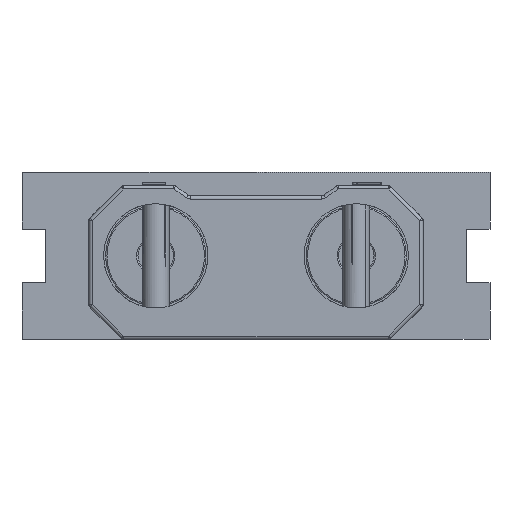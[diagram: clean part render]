
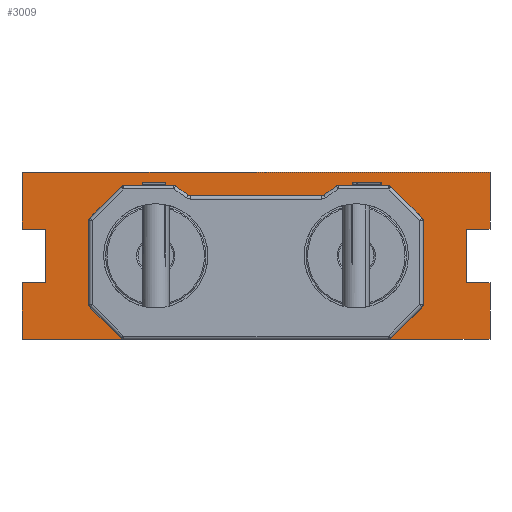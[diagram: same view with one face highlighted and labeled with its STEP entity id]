
A CAD part, front view. The second image highlights one B-rep face of the part: STEP entity #3009.
In plain terms, the highlighted planar face has unit normal (0, -1, 0).
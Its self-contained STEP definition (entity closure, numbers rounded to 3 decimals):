
#304 = EDGE_CURVE ( 'NONE', #17786, #9884, #12631, .T. ) ;
#425 = DIRECTION ( 'NONE',  ( -1., 0., 0. ) ) ;
#578 = DIRECTION ( 'NONE',  ( 0., 1., 0. ) ) ;
#609 = LINE ( 'NONE', #13153, #4425 ) ;
#690 = EDGE_CURVE ( 'NONE', #18525, #21862, #21395, .T. ) ;
#720 = CARTESIAN_POINT ( 'NONE',  ( 15., -5.069, 0. ) ) ;
#1014 = CARTESIAN_POINT ( 'NONE',  ( -35., -5.069, 12.5 ) ) ;
#1167 = DIRECTION ( 'NONE',  ( 0., 0., -1. ) ) ;
#1220 = VECTOR ( 'NONE', #16418, 1000. ) ;
#1553 = VERTEX_POINT ( 'NONE', #15854 ) ;
#1570 = CARTESIAN_POINT ( 'NONE',  ( 15., -5.069, 3.75 ) ) ;
#1806 = CARTESIAN_POINT ( 'NONE',  ( -15., -5.069, -3.75 ) ) ;
#2010 = ORIENTED_EDGE ( 'NONE', *, *, #12562, .T. ) ;
#2105 = ORIENTED_EDGE ( 'NONE', *, *, #5044, .F. ) ;
#2147 = VERTEX_POINT ( 'NONE', #12679 ) ;
#2151 = CARTESIAN_POINT ( 'NONE',  ( -15., -5.069, 3.75 ) ) ;
#2242 = CARTESIAN_POINT ( 'NONE',  ( 35., -5.069, 12.5 ) ) ;
#2283 = DIRECTION ( 'NONE',  ( 1., 0., 0. ) ) ;
#2467 = VECTOR ( 'NONE', #8908, 1000. ) ;
#2479 = LINE ( 'NONE', #13391, #8439 ) ;
#2533 = CIRCLE ( 'NONE', #8323, 3.75 ) ;
#2545 = DIRECTION ( 'NONE',  ( -1., 0., 0. ) ) ;
#2816 = EDGE_CURVE ( 'NONE', #17786, #11712, #10482, .T. ) ;
#2980 = VERTEX_POINT ( 'NONE', #15220 ) ;
#3009 = ADVANCED_FACE ( 'NONE', ( #16408, #16930, #9948 ), #4914, .F. ) ;
#3523 = VECTOR ( 'NONE', #21560, 1000. ) ;
#3568 = ORIENTED_EDGE ( 'NONE', *, *, #14305, .F. ) ;
#3857 = EDGE_LOOP ( 'NONE', ( #16840, #8976 ) ) ;
#4272 = VECTOR ( 'NONE', #6080, 1000. ) ;
#4425 = VECTOR ( 'NONE', #1167, 1000. ) ;
#4674 = VERTEX_POINT ( 'NONE', #10471 ) ;
#4815 = DIRECTION ( 'NONE',  ( 0., 1., 0. ) ) ;
#4893 = VERTEX_POINT ( 'NONE', #12707 ) ;
#4914 = PLANE ( 'NONE',  #9148 ) ;
#5044 = EDGE_CURVE ( 'NONE', #8438, #2980, #609, .T. ) ;
#5137 = DIRECTION ( 'NONE',  ( 0., 1., 0. ) ) ;
#5253 = AXIS2_PLACEMENT_3D ( 'NONE', #18112, #12914, #2545 ) ;
#5704 = ORIENTED_EDGE ( 'NONE', *, *, #7396, .T. ) ;
#5814 = VECTOR ( 'NONE', #2283, 1000. ) ;
#6080 = DIRECTION ( 'NONE',  ( 1., 0., 0. ) ) ;
#6316 = VECTOR ( 'NONE', #17241, 1000. ) ;
#6325 = ORIENTED_EDGE ( 'NONE', *, *, #9911, .T. ) ;
#6802 = EDGE_CURVE ( 'NONE', #4893, #4674, #2479, .T. ) ;
#7384 = DIRECTION ( 'NONE',  ( -1., 0., 0. ) ) ;
#7396 = EDGE_CURVE ( 'NONE', #16450, #2147, #19196, .T. ) ;
#7620 = CARTESIAN_POINT ( 'NONE',  ( -35., -5.069, -12.5 ) ) ;
#7987 = CIRCLE ( 'NONE', #13663, 3.75 ) ;
#8005 = VECTOR ( 'NONE', #12846, 1000. ) ;
#8323 = AXIS2_PLACEMENT_3D ( 'NONE', #720, #578, #425 ) ;
#8438 = VERTEX_POINT ( 'NONE', #17992 ) ;
#8439 = VECTOR ( 'NONE', #16861, 1000. ) ;
#8906 = EDGE_CURVE ( 'NONE', #4674, #2980, #18088, .T. ) ;
#8908 = DIRECTION ( 'NONE',  ( 1., 0., 0. ) ) ;
#8976 = ORIENTED_EDGE ( 'NONE', *, *, #11594, .T. ) ;
#9148 = AXIS2_PLACEMENT_3D ( 'NONE', #13776, #5137, #10233 ) ;
#9668 = LINE ( 'NONE', #17095, #14007 ) ;
#9685 = DIRECTION ( 'NONE',  ( 1., 0., 0. ) ) ;
#9884 = VERTEX_POINT ( 'NONE', #18374 ) ;
#9911 = EDGE_CURVE ( 'NONE', #2147, #22375, #9668, .T. ) ;
#9948 = FACE_OUTER_BOUND ( 'NONE', #9956, .T. ) ;
#9956 = EDGE_LOOP ( 'NONE', ( #14646, #20401, #10271, #2105, #3568, #5704, #6325, #12363, #20880, #17539, #21567, #21927 ) ) ;
#10233 = DIRECTION ( 'NONE',  ( -1., 0., 0. ) ) ;
#10271 = ORIENTED_EDGE ( 'NONE', *, *, #8906, .T. ) ;
#10471 = CARTESIAN_POINT ( 'NONE',  ( -35., -5.069, -12.5 ) ) ;
#10472 = CARTESIAN_POINT ( 'NONE',  ( -31.5, -5.069, -4. ) ) ;
#10482 = LINE ( 'NONE', #12879, #1220 ) ;
#11094 = CARTESIAN_POINT ( 'NONE',  ( -35., -5.069, 12.5 ) ) ;
#11302 = CARTESIAN_POINT ( 'NONE',  ( -35., -5.069, 4. ) ) ;
#11363 = EDGE_CURVE ( 'NONE', #16537, #15793, #16804, .T. ) ;
#11594 = EDGE_CURVE ( 'NONE', #15793, #16537, #7987, .T. ) ;
#11712 = VERTEX_POINT ( 'NONE', #22112 ) ;
#12041 = CARTESIAN_POINT ( 'NONE',  ( -15., -5.069, 0. ) ) ;
#12140 = CARTESIAN_POINT ( 'NONE',  ( -35., -5.069, -4. ) ) ;
#12363 = ORIENTED_EDGE ( 'NONE', *, *, #18723, .F. ) ;
#12562 = EDGE_CURVE ( 'NONE', #21862, #18525, #2533, .T. ) ;
#12631 = LINE ( 'NONE', #11094, #5814 ) ;
#12679 = CARTESIAN_POINT ( 'NONE',  ( 31.5, -5.069, 4. ) ) ;
#12688 = EDGE_CURVE ( 'NONE', #11712, #1553, #20360, .T. ) ;
#12707 = CARTESIAN_POINT ( 'NONE',  ( -35., -5.069, -4. ) ) ;
#12846 = DIRECTION ( 'NONE',  ( 0., 0., -1. ) ) ;
#12879 = CARTESIAN_POINT ( 'NONE',  ( -35., -5.069, 12.5 ) ) ;
#12914 = DIRECTION ( 'NONE',  ( 0., 1., 0. ) ) ;
#13153 = CARTESIAN_POINT ( 'NONE',  ( 35., -5.069, 12.5 ) ) ;
#13391 = CARTESIAN_POINT ( 'NONE',  ( -35., -5.069, 12.5 ) ) ;
#13572 = DIRECTION ( 'NONE',  ( 1., 0., 0. ) ) ;
#13663 = AXIS2_PLACEMENT_3D ( 'NONE', #12041, #4815, #15486 ) ;
#13776 = CARTESIAN_POINT ( 'NONE',  ( -35., -5.069, 12.5 ) ) ;
#14007 = VECTOR ( 'NONE', #13572, 1000. ) ;
#14305 = EDGE_CURVE ( 'NONE', #16450, #8438, #18966, .T. ) ;
#14561 = ORIENTED_EDGE ( 'NONE', *, *, #690, .T. ) ;
#14586 = LINE ( 'NONE', #17033, #15660 ) ;
#14646 = ORIENTED_EDGE ( 'NONE', *, *, #21361, .F. ) ;
#15220 = CARTESIAN_POINT ( 'NONE',  ( 35., -5.069, -12.5 ) ) ;
#15486 = DIRECTION ( 'NONE',  ( -1., 0., 0. ) ) ;
#15660 = VECTOR ( 'NONE', #20340, 1000. ) ;
#15793 = VERTEX_POINT ( 'NONE', #2151 ) ;
#15854 = CARTESIAN_POINT ( 'NONE',  ( -31.5, -5.069, 4. ) ) ;
#15950 = EDGE_CURVE ( 'NONE', #16521, #1553, #14586, .T. ) ;
#16057 = LINE ( 'NONE', #12140, #6316 ) ;
#16139 = EDGE_LOOP ( 'NONE', ( #2010, #14561 ) ) ;
#16408 = FACE_BOUND ( 'NONE', #3857, .T. ) ;
#16418 = DIRECTION ( 'NONE',  ( 0., 0., -1. ) ) ;
#16450 = VERTEX_POINT ( 'NONE', #17309 ) ;
#16521 = VERTEX_POINT ( 'NONE', #10472 ) ;
#16537 = VERTEX_POINT ( 'NONE', #1806 ) ;
#16804 = CIRCLE ( 'NONE', #21003, 3.75 ) ;
#16840 = ORIENTED_EDGE ( 'NONE', *, *, #11363, .T. ) ;
#16861 = DIRECTION ( 'NONE',  ( 0., 0., -1. ) ) ;
#16930 = FACE_BOUND ( 'NONE', #16139, .T. ) ;
#17033 = CARTESIAN_POINT ( 'NONE',  ( -31.5, -5.069, -4. ) ) ;
#17095 = CARTESIAN_POINT ( 'NONE',  ( 31.5, -5.069, 4. ) ) ;
#17241 = DIRECTION ( 'NONE',  ( 1., 0., 0. ) ) ;
#17309 = CARTESIAN_POINT ( 'NONE',  ( 31.5, -5.069, -4. ) ) ;
#17539 = ORIENTED_EDGE ( 'NONE', *, *, #2816, .T. ) ;
#17786 = VERTEX_POINT ( 'NONE', #1014 ) ;
#17992 = CARTESIAN_POINT ( 'NONE',  ( 35., -5.069, -4. ) ) ;
#18088 = LINE ( 'NONE', #7620, #4272 ) ;
#18108 = CARTESIAN_POINT ( 'NONE',  ( 31.5, -5.069, -4. ) ) ;
#18112 = CARTESIAN_POINT ( 'NONE',  ( 15., -5.069, 0. ) ) ;
#18374 = CARTESIAN_POINT ( 'NONE',  ( 35., -5.069, 12.5 ) ) ;
#18484 = VECTOR ( 'NONE', #9685, 1000. ) ;
#18493 = CARTESIAN_POINT ( 'NONE',  ( 15., -5.069, -3.75 ) ) ;
#18525 = VERTEX_POINT ( 'NONE', #1570 ) ;
#18723 = EDGE_CURVE ( 'NONE', #9884, #22375, #21483, .T. ) ;
#18966 = LINE ( 'NONE', #20890, #2467 ) ;
#18990 = CARTESIAN_POINT ( 'NONE',  ( 35., -5.069, 4. ) ) ;
#19196 = LINE ( 'NONE', #18108, #3523 ) ;
#20340 = DIRECTION ( 'NONE',  ( 0., 0., 1. ) ) ;
#20360 = LINE ( 'NONE', #11302, #18484 ) ;
#20401 = ORIENTED_EDGE ( 'NONE', *, *, #6802, .T. ) ;
#20880 = ORIENTED_EDGE ( 'NONE', *, *, #304, .F. ) ;
#20890 = CARTESIAN_POINT ( 'NONE',  ( 31.5, -5.069, -4. ) ) ;
#21003 = AXIS2_PLACEMENT_3D ( 'NONE', #21131, #21198, #7384 ) ;
#21131 = CARTESIAN_POINT ( 'NONE',  ( -15., -5.069, 0. ) ) ;
#21198 = DIRECTION ( 'NONE',  ( 0., 1., 0. ) ) ;
#21361 = EDGE_CURVE ( 'NONE', #4893, #16521, #16057, .T. ) ;
#21395 = CIRCLE ( 'NONE', #5253, 3.75 ) ;
#21483 = LINE ( 'NONE', #2242, #8005 ) ;
#21560 = DIRECTION ( 'NONE',  ( 0., 0., 1. ) ) ;
#21567 = ORIENTED_EDGE ( 'NONE', *, *, #12688, .T. ) ;
#21862 = VERTEX_POINT ( 'NONE', #18493 ) ;
#21927 = ORIENTED_EDGE ( 'NONE', *, *, #15950, .F. ) ;
#22112 = CARTESIAN_POINT ( 'NONE',  ( -35., -5.069, 4. ) ) ;
#22375 = VERTEX_POINT ( 'NONE', #18990 ) ;
